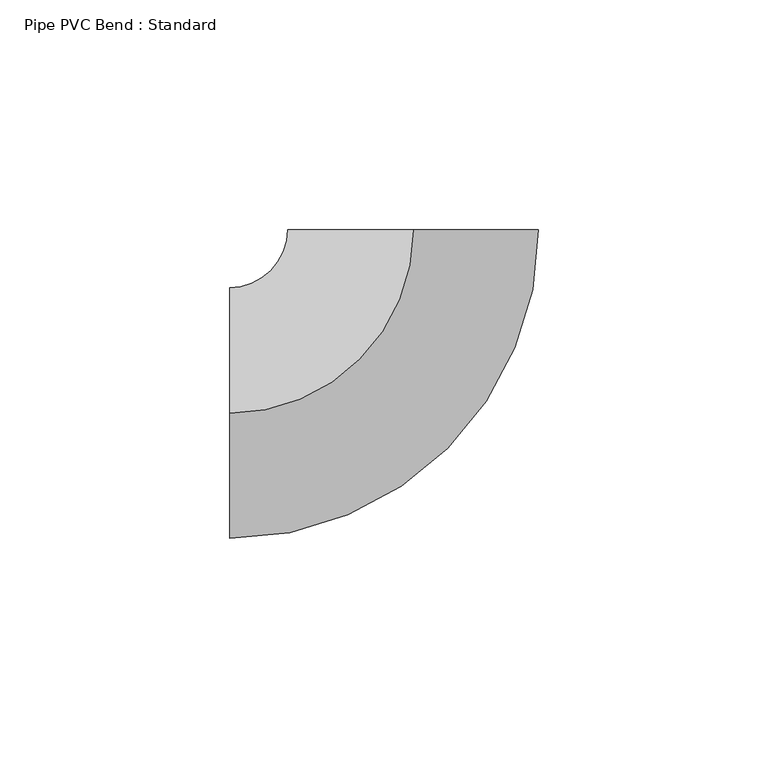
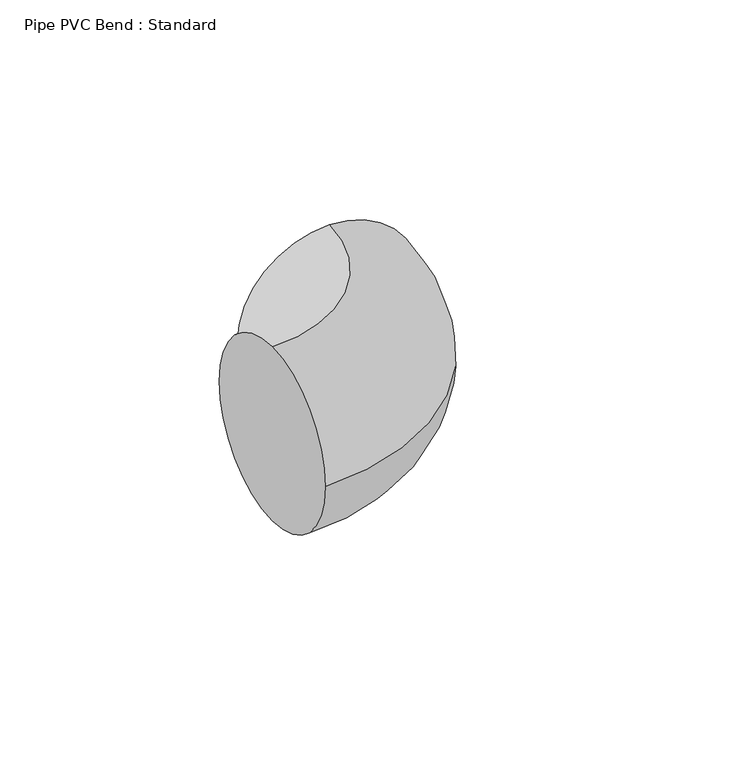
"""IFC4 building model written with IfcOpenShell, lengths in millimetres: pipe fitting geometry, Pipe PVC Bend : Standard."""

from ifc_helpers import new_model, si_unit, point, frame, origin, place, context, project, spatial, circle_curve, ellipse_curve, trimmed, source, transform, mapped, element, save
from ifc_brep_helpers import plane_surface, revolved_surface, advanced_brep


def pipe_pvc_bend_standard_cea5d147(model_context):
    return source(origin(), model_context, "Body", "AdvancedBrep", [
        advanced_brep(
        [(-39.9876846, 0.0, 27.305), (-39.9876846, 27.305, 0.0), (-39.9876846, 0.0, -27.305), (-39.9876846, -27.305, 0.0), (0.0173117, 39.9876808, 27.305), (27.3223091, 39.9758598, 0.0), (0.0173117, 39.9876808, -27.305), (-27.2876858, 39.9995019, 0.0)],
        [
            (0, 1, circle_curve(frame((-39.9876846, 0.0, 0.0), z_axis=(-1.0, 0.0, 0.0), x_axis=(0.0, 1.0, 0.0)), 27.305)),
            (1, 2, circle_curve(frame((-39.9876846, 0.0, 0.0), z_axis=(-1.0, 0.0, 0.0), x_axis=(0.0, 1.0, 0.0)), 27.305)),
            (2, 3, circle_curve(frame((-39.9876846, 0.0, 0.0), z_axis=(-1.0, 0.0, 0.0), x_axis=(0.0, 1.0, 0.0)), 27.305)),
            (3, 0, circle_curve(frame((-39.9876846, 0.0, 0.0), z_axis=(-1.0, 0.0, 0.0), x_axis=(0.0, 1.0, 0.0)), 27.305)),
            (4, 5, circle_curve(frame((0.0173117, 39.9876808, 0.0), z_axis=(0.0004329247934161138, 0.9999999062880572, 0.0), x_axis=(-0.9999999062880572, 0.0004329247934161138, 0.0)), 27.305)),
            (5, 6, circle_curve(frame((0.0173117, 39.9876808, 0.0), z_axis=(0.0004329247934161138, 0.9999999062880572, 0.0), x_axis=(-0.9999999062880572, 0.0004329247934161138, 0.0)), 27.305)),
            (6, 7, circle_curve(frame((0.0173117, 39.9876808, 0.0), z_axis=(0.0004329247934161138, 0.9999999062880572, 0.0), x_axis=(-0.9999999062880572, 0.0004329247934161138, 0.0)), 27.305)),
            (7, 4, circle_curve(frame((0.0173117, 39.9876808, 0.0), z_axis=(0.0004329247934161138, 0.9999999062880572, 0.0), x_axis=(-0.9999999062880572, 0.0004329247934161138, 0.0)), 27.305)),
            (7, 1, circle_curve(frame((-39.9876846, 40.005, 0.0), z_axis=(0.0, 0.0, -1.0), x_axis=(0.0, -1.0, 0.0)), 12.7)),
            (0, 4, circle_curve(frame((-39.9876846, 40.005, 27.305), z_axis=(0.0, 0.0, 1.0), x_axis=(0.0, -1.0, 0.0)), 40.005)),
            (6, 2, circle_curve(frame((-39.9876846, 40.005, -27.305), z_axis=(0.0, 0.0, -1.0), x_axis=(0.0, -1.0, 0.0)), 40.005)),
            (5, 3, circle_curve(frame((-39.9876846, 40.005, 0.0), z_axis=(0.0, 0.0, -1.0), x_axis=(0.0, -1.0, 0.0)), 67.31)),
        ],
        [
            plane_surface(frame((-39.9876846, 0.0, 0.0), z_axis=(-1.0, 0.0, 0.0), x_axis=(0.0, 0.0, 1.0))),
            plane_surface(frame((0.0173117, 39.9876808, 0.0), z_axis=(0.0004329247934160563, 0.9999999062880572, 0.0), x_axis=(0.0, 0.0, 1.0))),
            revolved_surface(trimmed(ellipse_curve(frame((-39.9876846, 0.0, 0.0), z_axis=(-1.0, 0.0, 0.0), x_axis=(0.0, 1.0, 0.0)), 27.305, 27.305), [point((-39.9876846, 0.0, 27.305))], [point((-39.9876846, 27.305, 0.0))], True, "CARTESIAN"), (-39.9876846, 40.005, 0.0), (0.0, 0.0, 1.0)),
            revolved_surface(trimmed(ellipse_curve(frame((-39.9876846, 0.0, 0.0), z_axis=(-1.0, 0.0, 0.0), x_axis=(0.0, 1.0, 0.0)), 27.305, 27.305), [point((-39.9876846, 27.305, 0.0))], [point((-39.9876846, 0.0, -27.305))], True, "CARTESIAN"), (-39.9876846, 40.005, 0.0), (0.0, 0.0, 1.0)),
            revolved_surface(trimmed(ellipse_curve(frame((-39.9876846, 0.0, 0.0), z_axis=(-1.0, 0.0, 0.0), x_axis=(0.0, 1.0, 0.0)), 27.305, 27.305), [point((-39.9876846, 0.0, -27.305))], [point((-39.9876846, -27.305, 0.0))], True, "CARTESIAN"), (-39.9876846, 40.005, 0.0), (0.0, 0.0, 1.0)),
            revolved_surface(trimmed(ellipse_curve(frame((-39.9876846, 0.0, 0.0), z_axis=(-1.0, 0.0, 0.0), x_axis=(0.0, 1.0, 0.0)), 27.305, 27.305), [point((-39.9876846, -27.305, 0.0))], [point((-39.9876846, 0.0, 27.305))], True, "CARTESIAN"), (-39.9876846, 40.005, 0.0), (0.0, 0.0, 1.0)),
        ],
        [
            (0, [[1, 2, 3, 4]]),
            (1, [[5, 6, 7, 8]]),
            (2, [[9, -1, 10, -8]]),
            (3, [[11, -2, -9, -7]]),
            (4, [[12, -3, -11, -6]]),
            (5, [[-10, -4, -12, -5]]),
        ],
    ),
        advanced_brep(
        [(-39.9876846, 0.0, 27.305), (-39.9876846, 27.305, 0.0), (-39.9876846, 0.0, -27.305), (-39.9876846, -27.305, 0.0), (0.0173117, 39.9876808, 27.305), (27.3223091, 39.9758598, 0.0), (0.0173117, 39.9876808, -27.305), (-27.2876858, 39.9995019, 0.0)],
        [
            (0, 1, circle_curve(frame((-39.9876846, 0.0, 0.0), z_axis=(-1.0, 0.0, 0.0), x_axis=(0.0, 1.0, 0.0)), 27.305)),
            (1, 2, circle_curve(frame((-39.9876846, 0.0, 0.0), z_axis=(-1.0, 0.0, 0.0), x_axis=(0.0, 1.0, 0.0)), 27.305)),
            (2, 3, circle_curve(frame((-39.9876846, 0.0, 0.0), z_axis=(-1.0, 0.0, 0.0), x_axis=(0.0, 1.0, 0.0)), 27.305)),
            (3, 0, circle_curve(frame((-39.9876846, 0.0, 0.0), z_axis=(-1.0, 0.0, 0.0), x_axis=(0.0, 1.0, 0.0)), 27.305)),
            (4, 5, circle_curve(frame((0.0173117, 39.9876808, 0.0), z_axis=(0.0004329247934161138, 0.9999999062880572, 0.0), x_axis=(-0.9999999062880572, 0.0004329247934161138, 0.0)), 27.305)),
            (5, 6, circle_curve(frame((0.0173117, 39.9876808, 0.0), z_axis=(0.0004329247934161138, 0.9999999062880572, 0.0), x_axis=(-0.9999999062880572, 0.0004329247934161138, 0.0)), 27.305)),
            (6, 7, circle_curve(frame((0.0173117, 39.9876808, 0.0), z_axis=(0.0004329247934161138, 0.9999999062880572, 0.0), x_axis=(-0.9999999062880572, 0.0004329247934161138, 0.0)), 27.305)),
            (7, 4, circle_curve(frame((0.0173117, 39.9876808, 0.0), z_axis=(0.0004329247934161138, 0.9999999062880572, 0.0), x_axis=(-0.9999999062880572, 0.0004329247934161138, 0.0)), 27.305)),
            (7, 1, circle_curve(frame((-39.9876846, 40.005, 0.0), z_axis=(0.0, 0.0, -1.0), x_axis=(0.0, -1.0, 0.0)), 12.7)),
            (0, 4, circle_curve(frame((-39.9876846, 40.005, 27.305), z_axis=(0.0, 0.0, 1.0), x_axis=(0.0, -1.0, 0.0)), 40.005)),
            (6, 2, circle_curve(frame((-39.9876846, 40.005, -27.305), z_axis=(0.0, 0.0, -1.0), x_axis=(0.0, -1.0, 0.0)), 40.005)),
            (5, 3, circle_curve(frame((-39.9876846, 40.005, 0.0), z_axis=(0.0, 0.0, -1.0), x_axis=(0.0, -1.0, 0.0)), 67.31)),
        ],
        [
            plane_surface(frame((-39.9876846, 0.0, 0.0), z_axis=(-1.0, 0.0, 0.0), x_axis=(0.0, 0.0, 1.0))),
            plane_surface(frame((0.0173117, 39.9876808, 0.0), z_axis=(0.0004329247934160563, 0.9999999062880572, 0.0), x_axis=(0.0, 0.0, 1.0))),
            revolved_surface(trimmed(ellipse_curve(frame((-39.9876846, 0.0, 0.0), z_axis=(-1.0, 0.0, 0.0), x_axis=(0.0, 1.0, 0.0)), 27.305, 27.305), [point((-39.9876846, 0.0, 27.305))], [point((-39.9876846, 27.305, 0.0))], True, "CARTESIAN"), (-39.9876846, 40.005, 0.0), (0.0, 0.0, 1.0)),
            revolved_surface(trimmed(ellipse_curve(frame((-39.9876846, 0.0, 0.0), z_axis=(-1.0, 0.0, 0.0), x_axis=(0.0, 1.0, 0.0)), 27.305, 27.305), [point((-39.9876846, 27.305, 0.0))], [point((-39.9876846, 0.0, -27.305))], True, "CARTESIAN"), (-39.9876846, 40.005, 0.0), (0.0, 0.0, 1.0)),
            revolved_surface(trimmed(ellipse_curve(frame((-39.9876846, 0.0, 0.0), z_axis=(-1.0, 0.0, 0.0), x_axis=(0.0, 1.0, 0.0)), 27.305, 27.305), [point((-39.9876846, 0.0, -27.305))], [point((-39.9876846, -27.305, 0.0))], True, "CARTESIAN"), (-39.9876846, 40.005, 0.0), (0.0, 0.0, 1.0)),
            revolved_surface(trimmed(ellipse_curve(frame((-39.9876846, 0.0, 0.0), z_axis=(-1.0, 0.0, 0.0), x_axis=(0.0, 1.0, 0.0)), 27.305, 27.305), [point((-39.9876846, -27.305, 0.0))], [point((-39.9876846, 0.0, 27.305))], True, "CARTESIAN"), (-39.9876846, 40.005, 0.0), (0.0, 0.0, 1.0)),
        ],
        [
            (0, [[1, 2, 3, 4]]),
            (1, [[5, 6, 7, 8]]),
            (2, [[9, -1, 10, -8]]),
            (3, [[11, -2, -9, -7]]),
            (4, [[12, -3, -11, -6]]),
            (5, [[-10, -4, -12, -5]]),
        ],
    ),
    ])


if __name__ == "__main__":
    model = new_model("IFC4")
    model_context = context("Model", 3, world=origin())
    ifc_project = project(units=[si_unit("LENGTHUNIT", "METRE", prefix="MILLI")], contexts=[model_context])
    site = spatial("IfcSite", under=ifc_project)
    building = spatial("IfcBuilding", under=site)
    placement = place(None, origin())
    pipe_pvc_bend_standard_shape = pipe_pvc_bend_standard_cea5d147(model_context)
    element("IfcPipeFitting", 1, ObjectType="Pipe PVC Bend : Standard", at=placement, inside=building, context=model_context, shape_type="MappedRepresentation", body=[
        mapped(pipe_pvc_bend_standard_shape, transform((0.0, 0.0, 0.0), x_axis=(1.0, 0.0, 0.0), y_axis=(0.0, 1.0, 0.0), z_axis=(0.0, 0.0, 1.0))),
    ])
    save(model, "model.ifc")
